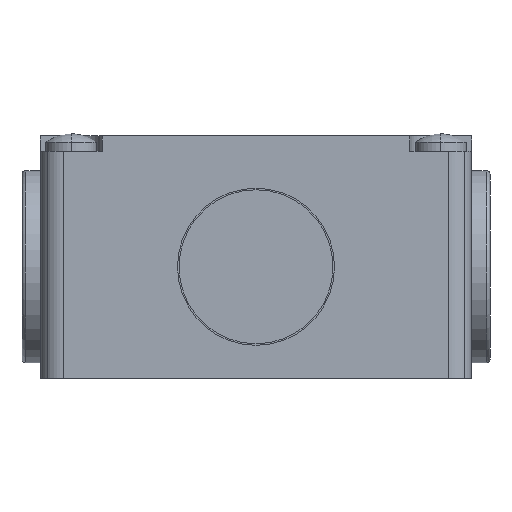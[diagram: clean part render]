
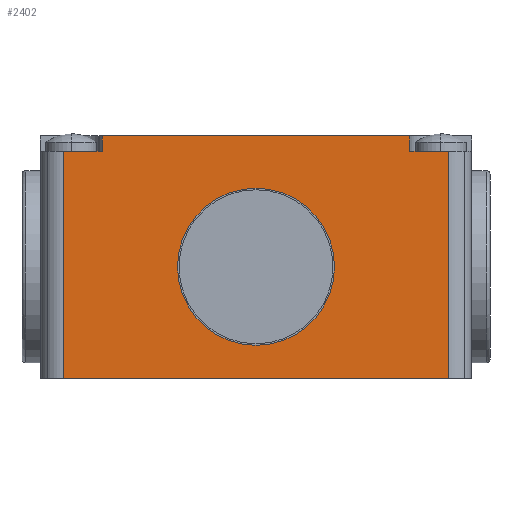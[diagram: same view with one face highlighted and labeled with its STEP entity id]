
A CAD part, front view. The second image highlights one B-rep face of the part: STEP entity #2402.
In plain terms, the highlighted planar face has unit normal (0, -1, 0).
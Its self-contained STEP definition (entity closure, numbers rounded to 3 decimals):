
#103 = FACE_BOUND ( 'NONE', #2950, .T. ) ;
#266 = CARTESIAN_POINT ( 'NONE',  ( -25., -56.8, 15. ) ) ;
#504 = VERTEX_POINT ( 'NONE', #15603 ) ;
#1239 = AXIS2_PLACEMENT_3D ( 'NONE', #13215, #4901, #14623 ) ;
#1306 = VERTEX_POINT ( 'NONE', #266 ) ;
#1376 = CARTESIAN_POINT ( 'NONE',  ( -25., -56.8, -14.5 ) ) ;
#1564 = LINE ( 'NONE', #4046, #15938 ) ;
#1794 = CARTESIAN_POINT ( 'NONE',  ( 28., -56.8, 15. ) ) ;
#1860 = CARTESIAN_POINT ( 'NONE',  ( -25., -56.8, -14.5 ) ) ;
#1898 = CARTESIAN_POINT ( 'NONE',  ( -25., -56.8, -14.5 ) ) ;
#2109 = EDGE_LOOP ( 'NONE', ( #18009, #17301, #11352, #10288, #17276, #9835, #3763, #14218 ) ) ;
#2402 = ADVANCED_FACE ( 'NONE', ( #103, #10737 ), #8752, .T. ) ;
#2407 = EDGE_CURVE ( 'NONE', #504, #15803, #7066, .T. ) ;
#2544 = CIRCLE ( 'NONE', #1239, 10.2 ) ;
#2627 = VECTOR ( 'NONE', #16945, 1000. ) ;
#2949 = CARTESIAN_POINT ( 'NONE',  ( 25., -56.8, -14.5 ) ) ;
#2950 = EDGE_LOOP ( 'NONE', ( #5898, #11517 ) ) ;
#3123 = VECTOR ( 'NONE', #5595, 1000. ) ;
#3333 = VERTEX_POINT ( 'NONE', #13852 ) ;
#3763 = ORIENTED_EDGE ( 'NONE', *, *, #15016, .F. ) ;
#3912 = CARTESIAN_POINT ( 'NONE',  ( 20., -56.8, 15. ) ) ;
#4046 = CARTESIAN_POINT ( 'NONE',  ( -25., -56.8, 17. ) ) ;
#4110 = CARTESIAN_POINT ( 'NONE',  ( 0., -56.8, 0. ) ) ;
#4165 = CARTESIAN_POINT ( 'NONE',  ( -20., -56.8, 15. ) ) ;
#4174 = CARTESIAN_POINT ( 'NONE',  ( -20., -56.8, 15. ) ) ;
#4596 = EDGE_CURVE ( 'NONE', #6246, #504, #15064, .T. ) ;
#4627 = DIRECTION ( 'NONE',  ( 0., -1., 0. ) ) ;
#4901 = DIRECTION ( 'NONE',  ( 0., -1., 0. ) ) ;
#5535 = DIRECTION ( 'NONE',  ( 0., 0., -1. ) ) ;
#5595 = DIRECTION ( 'NONE',  ( 0., 0., 1. ) ) ;
#5898 = ORIENTED_EDGE ( 'NONE', *, *, #13522, .F. ) ;
#6246 = VERTEX_POINT ( 'NONE', #2949 ) ;
#7021 = CARTESIAN_POINT ( 'NONE',  ( -28., -56.8, 15. ) ) ;
#7066 = LINE ( 'NONE', #1794, #17740 ) ;
#7137 = CARTESIAN_POINT ( 'NONE',  ( 25., -56.8, -14.5 ) ) ;
#7766 = VERTEX_POINT ( 'NONE', #11682 ) ;
#8192 = CARTESIAN_POINT ( 'NONE',  ( -25., -56.8, -14.5 ) ) ;
#8531 = EDGE_CURVE ( 'NONE', #16192, #7766, #14217, .T. ) ;
#8752 = PLANE ( 'NONE',  #16239 ) ;
#8780 = VERTEX_POINT ( 'NONE', #1898 ) ;
#8819 = DIRECTION ( 'NONE',  ( -1., 0., 0. ) ) ;
#9571 = DIRECTION ( 'NONE',  ( 1., 0., 0. ) ) ;
#9637 = CARTESIAN_POINT ( 'NONE',  ( 20., -56.8, 17. ) ) ;
#9708 = VECTOR ( 'NONE', #15057, 1000. ) ;
#9835 = ORIENTED_EDGE ( 'NONE', *, *, #8531, .F. ) ;
#10000 = LINE ( 'NONE', #7021, #2627 ) ;
#10236 = EDGE_CURVE ( 'NONE', #7766, #11161, #1564, .T. ) ;
#10285 = EDGE_CURVE ( 'NONE', #8780, #1306, #15049, .T. ) ;
#10288 = ORIENTED_EDGE ( 'NONE', *, *, #13140, .T. ) ;
#10737 = FACE_OUTER_BOUND ( 'NONE', #2109, .T. ) ;
#11161 = VERTEX_POINT ( 'NONE', #9637 ) ;
#11168 = EDGE_CURVE ( 'NONE', #16243, #3333, #13909, .T. ) ;
#11314 = VECTOR ( 'NONE', #12471, 1000. ) ;
#11325 = VECTOR ( 'NONE', #16864, 1000. ) ;
#11352 = ORIENTED_EDGE ( 'NONE', *, *, #2407, .T. ) ;
#11517 = ORIENTED_EDGE ( 'NONE', *, *, #11168, .F. ) ;
#11682 = CARTESIAN_POINT ( 'NONE',  ( -20., -56.8, 17. ) ) ;
#12471 = DIRECTION ( 'NONE',  ( 0., 0., 1. ) ) ;
#13065 = LINE ( 'NONE', #8192, #16780 ) ;
#13140 = EDGE_CURVE ( 'NONE', #15803, #11161, #13856, .T. ) ;
#13215 = CARTESIAN_POINT ( 'NONE',  ( 0., -56.8, 0. ) ) ;
#13522 = EDGE_CURVE ( 'NONE', #3333, #16243, #2544, .T. ) ;
#13770 = DIRECTION ( 'NONE',  ( 1., 0., 0. ) ) ;
#13845 = DIRECTION ( 'NONE',  ( 0., -1., 0. ) ) ;
#13852 = CARTESIAN_POINT ( 'NONE',  ( 0., -56.8, -10.2 ) ) ;
#13856 = LINE ( 'NONE', #3912, #9708 ) ;
#13909 = CIRCLE ( 'NONE', #13913, 10.2 ) ;
#13913 = AXIS2_PLACEMENT_3D ( 'NONE', #4110, #13845, #5535 ) ;
#14217 = LINE ( 'NONE', #4165, #3123 ) ;
#14218 = ORIENTED_EDGE ( 'NONE', *, *, #10285, .F. ) ;
#14365 = DIRECTION ( 'NONE',  ( 0., 0., -1. ) ) ;
#14623 = DIRECTION ( 'NONE',  ( 0., 0., -1. ) ) ;
#15016 = EDGE_CURVE ( 'NONE', #1306, #16192, #10000, .T. ) ;
#15049 = LINE ( 'NONE', #1376, #11314 ) ;
#15057 = DIRECTION ( 'NONE',  ( 0., 0., 1. ) ) ;
#15064 = LINE ( 'NONE', #7137, #11325 ) ;
#15603 = CARTESIAN_POINT ( 'NONE',  ( 25., -56.8, 15. ) ) ;
#15803 = VERTEX_POINT ( 'NONE', #17881 ) ;
#15813 = EDGE_CURVE ( 'NONE', #8780, #6246, #13065, .T. ) ;
#15938 = VECTOR ( 'NONE', #13770, 1000. ) ;
#16192 = VERTEX_POINT ( 'NONE', #4174 ) ;
#16239 = AXIS2_PLACEMENT_3D ( 'NONE', #1860, #4627, #14365 ) ;
#16243 = VERTEX_POINT ( 'NONE', #16912 ) ;
#16780 = VECTOR ( 'NONE', #9571, 1000. ) ;
#16864 = DIRECTION ( 'NONE',  ( 0., 0., 1. ) ) ;
#16912 = CARTESIAN_POINT ( 'NONE',  ( 0., -56.8, 10.2 ) ) ;
#16945 = DIRECTION ( 'NONE',  ( 1., 0., 0. ) ) ;
#17276 = ORIENTED_EDGE ( 'NONE', *, *, #10236, .F. ) ;
#17301 = ORIENTED_EDGE ( 'NONE', *, *, #4596, .T. ) ;
#17740 = VECTOR ( 'NONE', #8819, 1000. ) ;
#17881 = CARTESIAN_POINT ( 'NONE',  ( 20., -56.8, 15. ) ) ;
#18009 = ORIENTED_EDGE ( 'NONE', *, *, #15813, .T. ) ;
